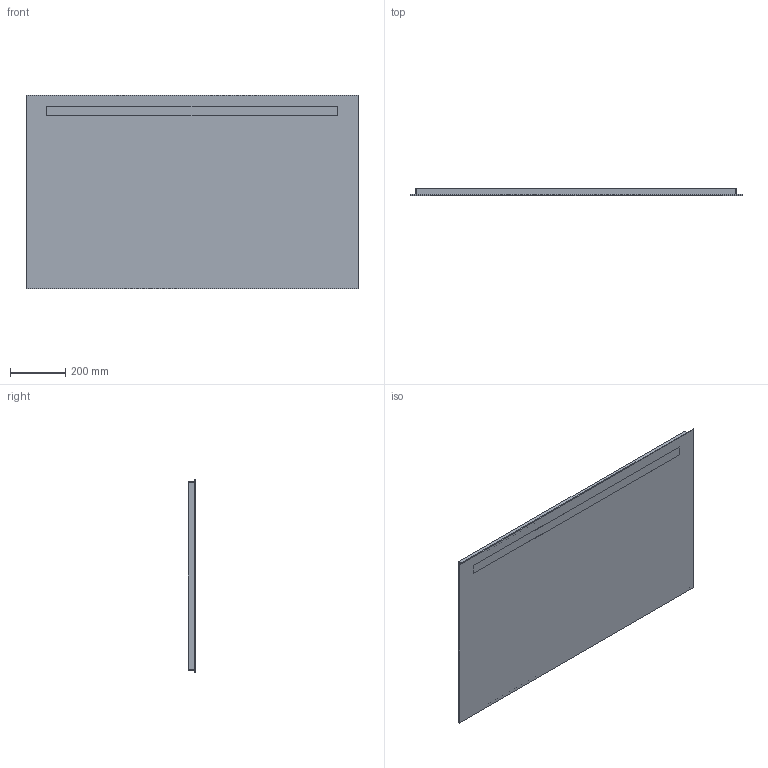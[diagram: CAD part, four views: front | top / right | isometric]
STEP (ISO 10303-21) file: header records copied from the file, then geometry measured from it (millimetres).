
FILE_DESCRIPTION(/* description */ (''),/* implementation_level */ '2;1');
FILE_NAME(/* name */ 'C:\Planerdaten\Export PLA\502.810.00.1\stp\502810.stp',/* time_stamp */ '2022-12-02T15:13:58+01:00',/* author */ ('JANAN'),/* organization */ (''),/* preprocessor_version */ 'ST-DEVELOPER v18.1',/* originating_system */ 'Autodesk Inventor 2021',/* authorisation */ '');
FILE_SCHEMA (('AUTOMOTIVE_DESIGN { 1 0 10303 214 3 1 1 }'));
Length unit declared in the file: millimetre
Products named in the file (1): tmp1AFA.tmp
Bounding box: 1200 x 26 x 700 mm (x, y, z)
Volume: 20707744.4 mm3; surface area: 3354853.5 mm2
Topology: 2 solids, 2 shells, 29 faces, 68 edges, 48 vertices
Faces by surface type: plane 21, cylinder 8
Full cylindrical faces by diameter (mm): 8 x4
Entity records: 937 total; most frequent: DIRECTION 152, CARTESIAN_POINT 146, ORIENTED_EDGE 136, EDGE_CURVE 68, AXIS2_PLACEMENT_3D 54, VERTEX_POINT 48, LINE 44, VECTOR 44
